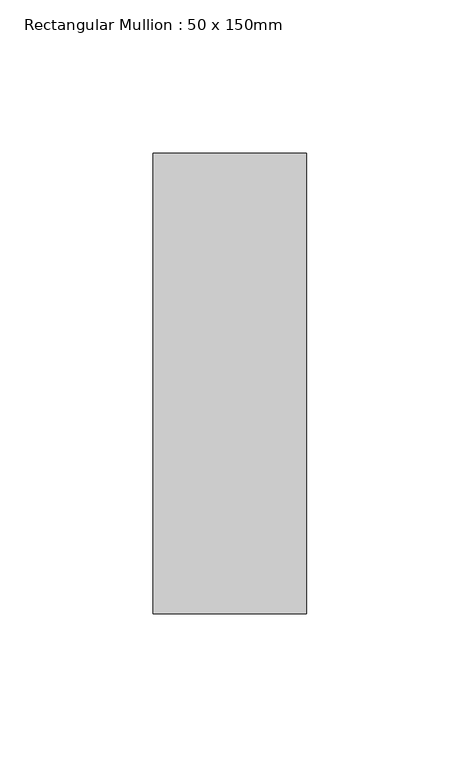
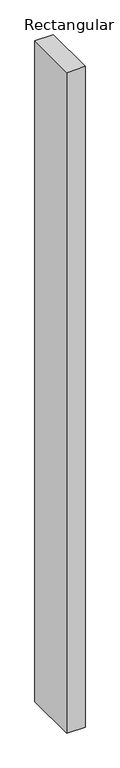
"""IFC4 building model written with IfcOpenShell, lengths in millimetres: member geometry, Rectangular Mullion : 50 x 150mm."""

from ifc_helpers import new_model, si_unit, frame, origin, place, context, project, spatial, polyline, outline, extrude, source, transform, mapped, element, save


def rectangular_mullion_50_x_150mm_55a91b40(model_context):
    return source(origin(), model_context, "Body", "SweptSolid", [
        extrude(outline(polyline([(25.0, 75.0), (25.0, -75.0), (-25.0, -75.0), (-25.0, 75.0), (25.0, 75.0)])), frame((0.0, 0.0, -1904.4), z_axis=(0.0, 0.0, 1.0), x_axis=(1.0, 0.0, 0.0)), (0.0, 0.0, 1.0), 1904.4),
    ])


if __name__ == "__main__":
    model = new_model("IFC4")
    model_context = context("Model", 3, world=origin())
    ifc_project = project(units=[si_unit("LENGTHUNIT", "METRE", prefix="MILLI")], contexts=[model_context])
    site = spatial("IfcSite", under=ifc_project)
    building = spatial("IfcBuilding", under=site)
    placement = place(None, origin())
    rectangular_mullion_50_x_150mm_shape = rectangular_mullion_50_x_150mm_55a91b40(model_context)
    element("IfcMember", 1, ObjectType="Rectangular Mullion : 50 x 150mm", at=placement, inside=building, context=model_context, shape_type="MappedRepresentation", body=[
        mapped(rectangular_mullion_50_x_150mm_shape, transform((0.0, 0.0, 0.0), x_axis=(1.0, 0.0, 0.0), y_axis=(0.0, 1.0, 0.0), z_axis=(0.0, 0.0, 1.0))),
    ])
    save(model, "model.ifc")
